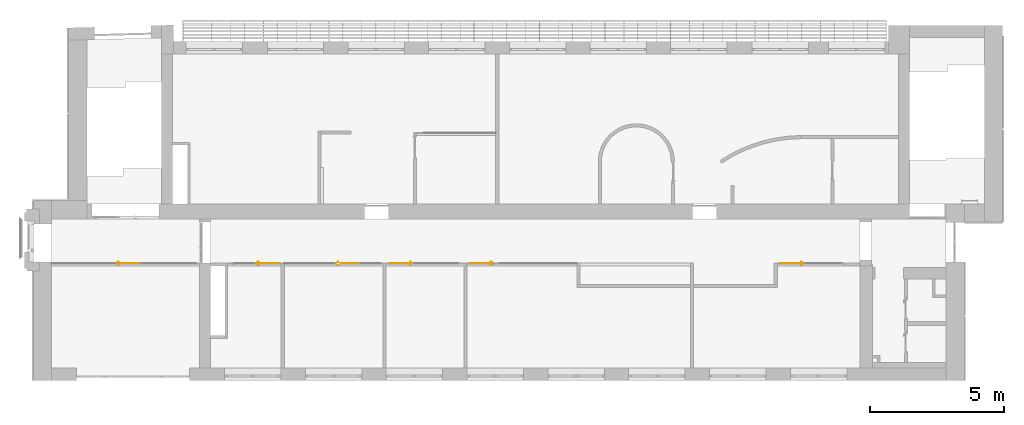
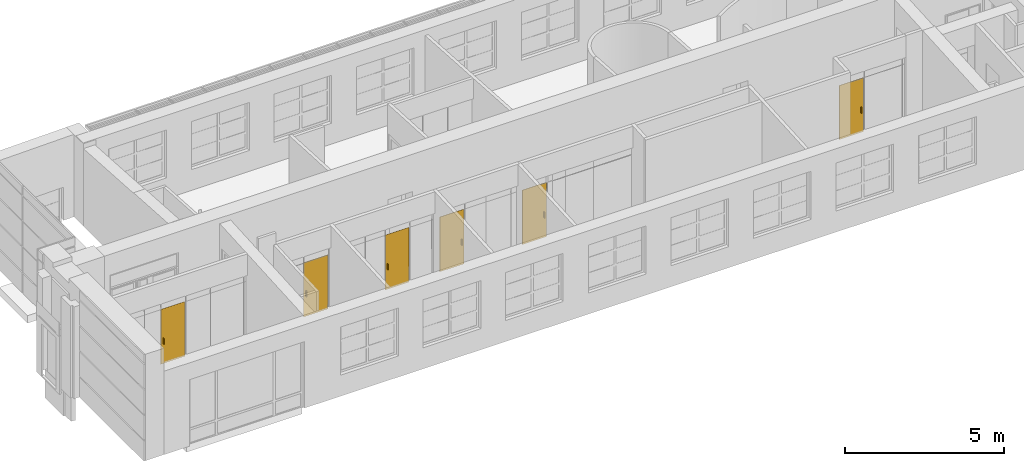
# One storey, part 45 of 46: 6 doors, 6 elements without a shape of their own.
"""IFC2X3 building model written with IfcOpenShell, lengths in millimetres."""

from ifc_helpers import new_model, entity, si_unit, converted_unit, derived_unit, direction, frame, frame_2d, origin, origin_2d_with_axis, place, context, subcontext, project, spatial, rectangle, extrude, source, transform, mapped, material, material_list, type_object, type_shapes, element, aggregate, save


model = new_model("IFC2X3")

# Units and contexts
model_context = context("Model", 3, precision=0.01, world=origin(), true_north=direction((6.12303176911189e-17, 1.0)))
body_context = subcontext(model_context, "Body", "Model", "MODEL_VIEW")
ifc_project = project(units=[si_unit("LENGTHUNIT", "METRE", prefix="MILLI"), si_unit("AREAUNIT", "SQUARE_METRE"), si_unit("VOLUMEUNIT", "CUBIC_METRE"), converted_unit("PLANEANGLEUNIT", "DEGREE", entity("IfcRatioMeasure", 0.0174532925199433), si_unit("PLANEANGLEUNIT", "RADIAN"), dimensions=[0, 0, 0, 0, 0, 0, 0]), si_unit("MASSUNIT", "GRAM", prefix="KILO"), derived_unit("MASSDENSITYUNIT", [(si_unit("MASSUNIT", "GRAM", prefix="KILO"), 1), (si_unit("LENGTHUNIT", "METRE"), -3)]), si_unit("TIMEUNIT", "SECOND"), si_unit("FREQUENCYUNIT", "HERTZ"), si_unit("THERMODYNAMICTEMPERATUREUNIT", "DEGREE_CELSIUS"), derived_unit("THERMALTRANSMITTANCEUNIT", [(si_unit("MASSUNIT", "GRAM", prefix="KILO"), 1), (si_unit("THERMODYNAMICTEMPERATUREUNIT", "KELVIN"), -1), (si_unit("TIMEUNIT", "SECOND"), -3)]), derived_unit("VOLUMETRICFLOWRATEUNIT", [(si_unit("LENGTHUNIT", "METRE"), 3), (si_unit("TIMEUNIT", "SECOND"), -1)]), si_unit("ELECTRICCURRENTUNIT", "AMPERE"), si_unit("ELECTRICVOLTAGEUNIT", "VOLT"), si_unit("POWERUNIT", "WATT"), si_unit("FORCEUNIT", "NEWTON", prefix="KILO"), si_unit("ILLUMINANCEUNIT", "LUX"), si_unit("LUMINOUSFLUXUNIT", "LUMEN"), si_unit("LUMINOUSINTENSITYUNIT", "CANDELA"), derived_unit("USERDEFINED", [(si_unit("MASSUNIT", "GRAM", prefix="KILO"), -1), (si_unit("LENGTHUNIT", "METRE"), -2), (si_unit("TIMEUNIT", "SECOND"), 3), (si_unit("LUMINOUSFLUXUNIT", "LUMEN"), 1)]), derived_unit("LINEARVELOCITYUNIT", [(si_unit("LENGTHUNIT", "METRE"), 1), (si_unit("TIMEUNIT", "SECOND"), -1)]), si_unit("PRESSUREUNIT", "PASCAL"), derived_unit("USERDEFINED", [(si_unit("LENGTHUNIT", "METRE"), -2), (si_unit("MASSUNIT", "GRAM", prefix="KILO"), 1), (si_unit("TIMEUNIT", "SECOND"), -2)])], contexts=[model_context])

# Site, building, storey
site_placement = place(None, frame((-151.875543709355, 2715.0, 0.0)))
site = spatial("IfcSite", under=ifc_project, at=site_placement, Name="Surface", CompositionType="ELEMENT")
building_placement = place(site_placement, origin())
building = spatial("IfcBuilding", under=site, at=building_placement, CompositionType="ELEMENT")
storey_placement = place(building_placement, frame((0.0, 0.0, 10060.0)))
storey = spatial("IfcBuildingStorey", under=building, at=storey_placement, Name="4 korrus", CompositionType="ELEMENT", Elevation=10060.0000000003)

# Curtain wall, door
curtain_wall_type_1 = type_object("IfcCurtainWallType", Name="Curtain Wall:Klaassein KLS-26", PredefinedType="NOTDEFINED")
curtain_wall_1_placement = place(storey_placement, frame((0.0, 0.0, -10060.0)))
curtain_wall_1 = element("IfcCurtainWall", 1, at=curtain_wall_1_placement, inside=storey, type_object=curtain_wall_type_1, Name="Curtain Wall:Klaassein KLS-26", ObjectType="Curtain Wall:Klaassein KLS-26")
ifc_material_1 = material(Name="Glass")
ifc_material_2 = material(Name="Aluminum")
ifc_material_list_1 = material_list([ifc_material_1, ifc_material_2])
ifc_material_list_2 = material_list([ifc_material_1, ifc_material_2])
door_style_1 = type_object("IfcDoorStyle", Name="Klaasuks", ConstructionType="NOTDEFINED", OperationType="NOTDEFINED", ParameterTakesPrecedence=False, Sizeable=False, material=ifc_material_list_2)
shared_shape_1 = source(origin(), body_context, "Body", "SweptSolid", [
    extrude(rectangle(XDim=880.0, YDim=12.7000000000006, at=origin_2d_with_axis()), frame((0.0, -6.34999999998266, 0.0), z_axis=(0.0, 0.0, 1.0), x_axis=(-1.0, 0.0, 0.0)), (0.0, 0.0, 1.0), 2110.0),
    extrude(rectangle(XDim=50.8, YDim=25.3999999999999, at=origin_2d_with_axis()), frame((-351.1, -38.099999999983, 762.0), z_axis=(0.0, 0.0, 1.0), x_axis=(0.0, 1.0, 0.0)), (0.0, 0.0, 1.0), 228.6),
    extrude(rectangle(XDim=50.8, YDim=25.3999999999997, at=frame_2d((0.0, 3.37507799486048e-14), x_axis=(1.0, 0.0))), frame((-351.1, 25.4000000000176, 762.0), z_axis=(0.0, 0.0, 1.0), x_axis=(0.0, -1.0, 0.0)), (0.0, 0.0, 1.0), 228.6),
])
type_shapes(door_style_1, [shared_shape_1])
door_1_placement = place(curtain_wall_1_placement, frame((13463.5647267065, 4355.1956268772, 10060.0), z_axis=(0.0, 0.0, 1.0), x_axis=(-1.0, 0.0, 0.0)))
door_1 = element("IfcDoor", 2, at=door_1_placement, type_object=door_style_1, material=ifc_material_list_1, Name="Door-Curtain-Wall-Single-Glass:Klaasuks", ObjectType="Klaasuks", OverallHeight=2110.0, OverallWidth=880.000000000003, context=body_context, shape_type="MappedRepresentation", body=[
    mapped(shared_shape_1, transform((0.0, 0.0, 0.0), scale=1.0)),
])
aggregate(curtain_wall_1, [door_1])

curtain_wall_type_2 = type_object("IfcCurtainWallType", Name="Curtain Wall:Klaassein KLS-20", PredefinedType="NOTDEFINED")
curtain_wall_2_placement = place(storey_placement, frame((0.0, 0.0, -10060.0)))
curtain_wall_2 = element("IfcCurtainWall", 3, at=curtain_wall_2_placement, inside=storey, type_object=curtain_wall_type_2, Name="Curtain Wall:Klaassein KLS-20", ObjectType="Curtain Wall:Klaassein KLS-20")
ifc_material_list_3 = material_list([ifc_material_1, ifc_material_2])
ifc_material_list_4 = material_list([ifc_material_1, ifc_material_2])
door_style_2 = type_object("IfcDoorStyle", Name="Klaasuks", ConstructionType="NOTDEFINED", OperationType="NOTDEFINED", ParameterTakesPrecedence=False, Sizeable=False, material=ifc_material_list_4)
shared_shape_2 = source(origin(), body_context, "Body", "SweptSolid", [
    extrude(rectangle(XDim=879.999999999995, YDim=12.7000000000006, at=origin_2d_with_axis()), frame((0.0, -6.34999999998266, 0.0), z_axis=(0.0, 0.0, 1.0), x_axis=(-1.0, 0.0, 0.0)), (0.0, 0.0, 1.0), 2080.0),
    extrude(rectangle(XDim=50.8, YDim=25.3999999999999, at=origin_2d_with_axis()), frame((-351.099999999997, -38.099999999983, 762.0), z_axis=(0.0, 0.0, 1.0), x_axis=(0.0, 1.0, 0.0)), (0.0, 0.0, 1.0), 228.6),
    extrude(rectangle(XDim=50.8, YDim=25.3999999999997, at=frame_2d((0.0, 3.37507799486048e-14), x_axis=(1.0, 0.0))), frame((-351.099999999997, 25.4000000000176, 762.0), z_axis=(0.0, 0.0, 1.0), x_axis=(0.0, -1.0, 0.0)), (0.0, 0.0, 1.0), 228.6),
])
type_shapes(door_style_2, [shared_shape_2])
door_2_placement = place(curtain_wall_2_placement, frame((28011.564726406, 4355.04493399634, 10060.0), z_axis=(0.0, 0.0, 1.0), x_axis=(-1.0, 0.0, 0.0)))
door_2 = element("IfcDoor", 4, at=door_2_placement, type_object=door_style_2, material=ifc_material_list_3, Name="Door-Curtain-Wall-Single-Glass:Klaasuks", ObjectType="Klaasuks", OverallHeight=2080.0, OverallWidth=879.999999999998, context=body_context, shape_type="MappedRepresentation", body=[
    mapped(shared_shape_2, transform((0.0, 0.0, 0.0), scale=1.0)),
])
aggregate(curtain_wall_2, [door_2])

curtain_wall_type_3 = type_object("IfcCurtainWallType", Name="Curtain Wall:Klaassein KLS-27", PredefinedType="NOTDEFINED")
curtain_wall_3_placement = place(storey_placement, frame((0.0, 0.0, -10060.0)))
curtain_wall_3 = element("IfcCurtainWall", 5, at=curtain_wall_3_placement, inside=storey, type_object=curtain_wall_type_3, Name="Curtain Wall:Klaassein KLS-27", ObjectType="Curtain Wall:Klaassein KLS-27")
ifc_material_list_5 = material_list([ifc_material_1, ifc_material_2])
ifc_material_list_6 = material_list([ifc_material_1, ifc_material_2])
door_style_3 = type_object("IfcDoorStyle", Name="Klaasuks", ConstructionType="NOTDEFINED", OperationType="NOTDEFINED", ParameterTakesPrecedence=False, Sizeable=False, material=ifc_material_list_6)
shared_shape_3 = source(origin(), body_context, "Body", "SweptSolid", [
    extrude(rectangle(XDim=880.000000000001, YDim=12.7000000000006, at=origin_2d_with_axis()), frame((0.0, -6.34999999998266, 0.0), z_axis=(0.0, 0.0, 1.0), x_axis=(-1.0, 0.0, 0.0)), (0.0, 0.0, 1.0), 2090.0),
    extrude(rectangle(XDim=50.8, YDim=25.3999999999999, at=origin_2d_with_axis()), frame((-351.1, -38.099999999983, 762.0), z_axis=(0.0, 0.0, 1.0), x_axis=(0.0, 1.0, 0.0)), (0.0, 0.0, 1.0), 228.6),
    extrude(rectangle(XDim=50.8, YDim=25.3999999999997, at=frame_2d((0.0, 3.37507799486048e-14), x_axis=(1.0, 0.0))), frame((-351.100000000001, 25.4000000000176, 762.0), z_axis=(0.0, 0.0, 1.0), x_axis=(0.0, -1.0, 0.0)), (0.0, 0.0, 1.0), 228.6),
])
type_shapes(door_style_3, [shared_shape_3])
door_3_placement = place(curtain_wall_3_placement, frame((16469.5647264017, 4355.04493399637, 10060.0), z_axis=(0.0, 0.0, 1.0), x_axis=(-1.0, 0.0, 0.0)))
door_3 = element("IfcDoor", 6, at=door_3_placement, type_object=door_style_3, material=ifc_material_list_5, Name="Door-Curtain-Wall-Single-Glass:Klaasuks", ObjectType="Klaasuks", OverallHeight=2090.0, OverallWidth=880.000000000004, context=body_context, shape_type="MappedRepresentation", body=[
    mapped(shared_shape_3, transform((0.0, 0.0, 0.0), scale=1.0)),
])
aggregate(curtain_wall_3, [door_3])

curtain_wall_type_4 = type_object("IfcCurtainWallType", Name="Curtain Wall:Klaassein KLS-07", PredefinedType="NOTDEFINED")
curtain_wall_4_placement = place(storey_placement, frame((0.0, 0.0, -10060.0)))
curtain_wall_4 = element("IfcCurtainWall", 7, at=curtain_wall_4_placement, inside=storey, type_object=curtain_wall_type_4, Name="Curtain Wall:Klaassein KLS-07", ObjectType="Curtain Wall:Klaassein KLS-07")
ifc_material_list_7 = material_list([ifc_material_1, ifc_material_2])
ifc_material_list_8 = material_list([ifc_material_1, ifc_material_2])
door_style_4 = type_object("IfcDoorStyle", Name="Klaasuks", ConstructionType="NOTDEFINED", OperationType="NOTDEFINED", ParameterTakesPrecedence=False, Sizeable=False, material=ifc_material_list_8)
shared_shape_4 = source(origin(), body_context, "Body", "SweptSolid", [
    extrude(rectangle(XDim=12.7000000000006, YDim=880.0, at=origin_2d_with_axis()), frame((0.0, 6.34999999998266, 0.0), z_axis=(0.0, 0.0, 1.0), x_axis=(0.0, 1.0, 0.0)), (0.0, 0.0, 1.0), 2110.0),
    extrude(rectangle(XDim=25.3999999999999, YDim=50.8, at=frame_2d((0.0, -3.5527136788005e-15), x_axis=(1.0, 0.0))), frame((-351.1, 38.099999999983, 762.0), z_axis=(0.0, 0.0, 1.0), x_axis=(-1.0, 0.0, 0.0)), (0.0, 0.0, 1.0), 228.6),
    extrude(rectangle(XDim=25.3999999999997, YDim=50.8, at=frame_2d((3.37507799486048e-14, -1.77635683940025e-15), x_axis=(1.0, 0.0))), frame((-351.1, -25.4000000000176, 762.0)), (0.0, 0.0, 1.0), 228.6),
])
type_shapes(door_style_4, [shared_shape_4])
door_4_placement = place(curtain_wall_4_placement, frame((3299.87554580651, 4355.0449339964, 10060.0)))
door_4 = element("IfcDoor", 8, at=door_4_placement, type_object=door_style_4, material=ifc_material_list_7, Name="Door-Curtain-Wall-Single-Glass:Klaasuks", ObjectType="Klaasuks", OverallHeight=2110.0, OverallWidth=880.000000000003, context=body_context, shape_type="MappedRepresentation", body=[
    mapped(shared_shape_4, transform((0.0, 0.0, 0.0), scale=1.0)),
])
aggregate(curtain_wall_4, [door_4])

curtain_wall_type_5 = type_object("IfcCurtainWallType", Name="Curtain Wall:Klaassein KLS-24", PredefinedType="NOTDEFINED")
curtain_wall_5_placement = place(storey_placement, frame((0.0, 0.0, -10060.0)))
curtain_wall_5 = element("IfcCurtainWall", 9, at=curtain_wall_5_placement, inside=storey, type_object=curtain_wall_type_5, Name="Curtain Wall:Klaassein KLS-24", ObjectType="Curtain Wall:Klaassein KLS-24")
ifc_material_list_9 = material_list([ifc_material_1, ifc_material_2])
ifc_material_list_10 = material_list([ifc_material_1, ifc_material_2])
door_style_5 = type_object("IfcDoorStyle", Name="Klaasuks", ConstructionType="NOTDEFINED", OperationType="NOTDEFINED", ParameterTakesPrecedence=False, Sizeable=False, material=ifc_material_list_10)
shared_shape_5 = source(origin(), body_context, "Body", "SweptSolid", [
    extrude(rectangle(XDim=12.7000000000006, YDim=880.0, at=origin_2d_with_axis()), frame((0.0, 6.34999999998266, 0.0), z_axis=(0.0, 0.0, 1.0), x_axis=(0.0, 1.0, 0.0)), (0.0, 0.0, 1.0), 2090.0),
    extrude(rectangle(XDim=25.3999999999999, YDim=50.8, at=frame_2d((0.0, -3.5527136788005e-15), x_axis=(1.0, 0.0))), frame((-351.1, 38.099999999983, 762.0), z_axis=(0.0, 0.0, 1.0), x_axis=(-1.0, 0.0, 0.0)), (0.0, 0.0, 1.0), 228.6),
    extrude(rectangle(XDim=25.3999999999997, YDim=50.8, at=frame_2d((3.37507799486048e-14, -1.77635683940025e-15), x_axis=(1.0, 0.0))), frame((-351.1, -25.4000000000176, 762.0)), (0.0, 0.0, 1.0), 228.6),
])
type_shapes(door_style_5, [shared_shape_5])
door_5_placement = place(curtain_wall_5_placement, frame((8501.56472640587, 4355.0449339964, 10060.0)))
door_5 = element("IfcDoor", 10, at=door_5_placement, type_object=door_style_5, material=ifc_material_list_9, Name="Door-Curtain-Wall-Single-Glass:Klaasuks", ObjectType="Klaasuks", OverallHeight=2090.0, OverallWidth=880.000000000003, context=body_context, shape_type="MappedRepresentation", body=[
    mapped(shared_shape_5, transform((0.0, 0.0, 0.0), scale=1.0)),
])
aggregate(curtain_wall_5, [door_5])

curtain_wall_type_6 = type_object("IfcCurtainWallType", Name="Curtain Wall:Klaassein KLS-25", PredefinedType="NOTDEFINED")
curtain_wall_6_placement = place(storey_placement, frame((0.0, 0.0, -10060.0)))
curtain_wall_6 = element("IfcCurtainWall", 11, at=curtain_wall_6_placement, inside=storey, type_object=curtain_wall_type_6, Name="Curtain Wall:Klaassein KLS-25", ObjectType="Curtain Wall:Klaassein KLS-25")
ifc_material_list_11 = material_list([ifc_material_1, ifc_material_2])
ifc_material_list_12 = material_list([ifc_material_1, ifc_material_2])
door_style_6 = type_object("IfcDoorStyle", Name="Klaasuks", ConstructionType="NOTDEFINED", OperationType="NOTDEFINED", ParameterTakesPrecedence=False, Sizeable=False, material=ifc_material_list_12)
shared_shape_6 = source(origin(), body_context, "Body", "SweptSolid", [
    extrude(rectangle(XDim=12.7000000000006, YDim=879.999999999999, at=origin_2d_with_axis()), frame((0.0, 6.34999999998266, 0.0), z_axis=(0.0, 0.0, 1.0), x_axis=(0.0, 1.0, 0.0)), (0.0, 0.0, 1.0), 2110.0),
    extrude(rectangle(XDim=25.3999999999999, YDim=50.8, at=frame_2d((0.0, -3.5527136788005e-15), x_axis=(1.0, 0.0))), frame((-351.099999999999, 38.099999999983, 762.0), z_axis=(0.0, 0.0, 1.0), x_axis=(-1.0, 0.0, 0.0)), (0.0, 0.0, 1.0), 228.6),
    extrude(rectangle(XDim=25.3999999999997, YDim=50.8, at=frame_2d((3.37507799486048e-14, -1.77635683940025e-15), x_axis=(1.0, 0.0))), frame((-351.1, -25.4000000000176, 762.0)), (0.0, 0.0, 1.0), 228.6),
])
type_shapes(door_style_6, [shared_shape_6])
door_6_placement = place(curtain_wall_6_placement, frame((11467.5647267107, 4355.19562687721, 10060.0)))
door_6 = element("IfcDoor", 12, at=door_6_placement, type_object=door_style_6, material=ifc_material_list_11, Name="Door-Curtain-Wall-Single-Glass:Klaasuks", ObjectType="Klaasuks", OverallHeight=2110.0, OverallWidth=880.000000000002, context=body_context, shape_type="MappedRepresentation", body=[
    mapped(shared_shape_6, transform((0.0, 0.0, 0.0), scale=1.0)),
])
aggregate(curtain_wall_6, [door_6])

save(model, "model.ifc")
